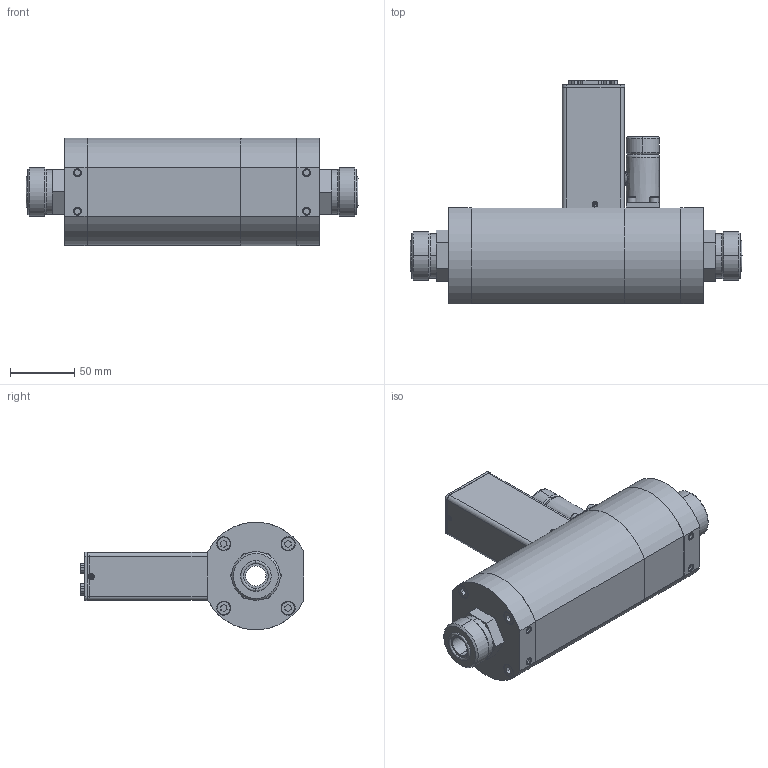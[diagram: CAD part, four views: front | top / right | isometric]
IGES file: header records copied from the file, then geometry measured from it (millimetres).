
Start section: SolidWorks IGES file using analytic representation for surfaces
Global section: file name: G:\Engineering\CAD MODELS FOR SALES\CAD MODEL STORAGE\SLA\SLA5853\IGES\SLA5853-1-2L-2-A-REVB.IGS; native system: SolidWorks 2020; preprocessor: SolidWorks 2020; author: CFehr; date: 220408.151846; units: inch
Bounding box: 259.09 x 174.57 x 83.73 mm (x, y, z)
Volume: 280683.9 mm3; surface area: 199423.5 mm2
Topology: 43 solids, 43 shells, 1915 faces, 4939 edges, 3177 vertices
Faces by surface type: plane 938, revolution 841, bspline 136
